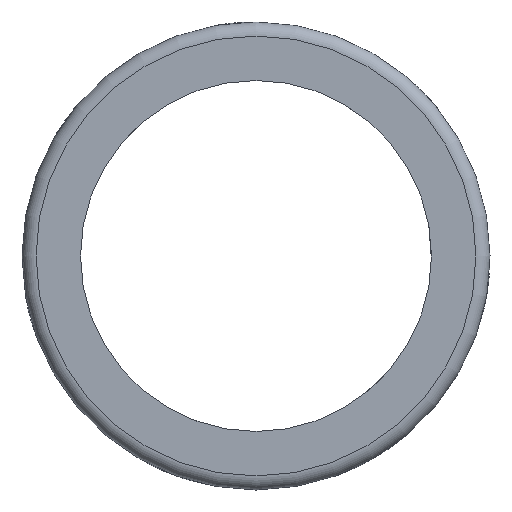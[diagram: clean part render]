
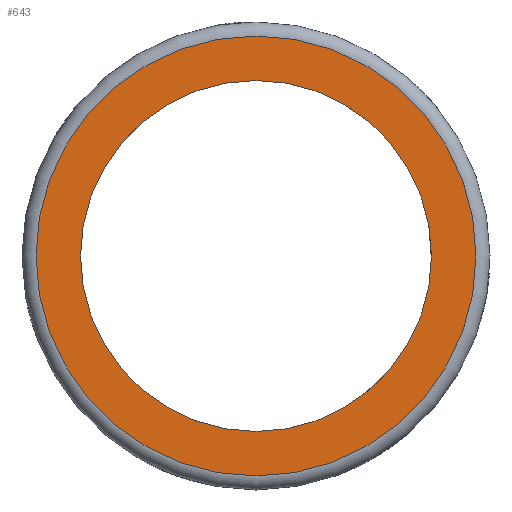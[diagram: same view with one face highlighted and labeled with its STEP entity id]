
A CAD part, left-side view. The second image highlights one B-rep face of the part: STEP entity #643.
In plain terms, the highlighted planar face has unit normal (-1, 0, 0).
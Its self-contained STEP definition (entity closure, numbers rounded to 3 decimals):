
#23=PLANE('',#695);
#40=CIRCLE('',#691,15.);
#43=CIRCLE('',#696,18.8);
#218=ORIENTED_EDGE('',*,*,#397,.T.);
#219=ORIENTED_EDGE('',*,*,#378,.T.);
#378=EDGE_CURVE('',#468,#468,#40,.T.);
#397=EDGE_CURVE('',#487,#487,#43,.F.);
#468=VERTEX_POINT('',#1033);
#487=VERTEX_POINT('',#1105);
#536=EDGE_LOOP('',(#218));
#537=EDGE_LOOP('',(#219));
#590=FACE_BOUND('',#536,.T.);
#591=FACE_BOUND('',#537,.T.);
#643=ADVANCED_FACE('',(#590,#591),#23,.F.);
#691=AXIS2_PLACEMENT_3D('',#1032,#757,#758);
#695=AXIS2_PLACEMENT_3D('',#1103,#773,#774);
#696=AXIS2_PLACEMENT_3D('',#1104,#775,#776);
#757=DIRECTION('',(1.,0.,0.));
#758=DIRECTION('',(0.,0.,-1.));
#773=DIRECTION('',(1.,0.,0.));
#774=DIRECTION('',(0.,0.,-1.));
#775=DIRECTION('',(1.,0.,0.));
#776=DIRECTION('',(0.,0.,-1.));
#1032=CARTESIAN_POINT('',(-25.,0.,0.));
#1033=CARTESIAN_POINT('',(-25.,0.,-15.));
#1103=CARTESIAN_POINT('',(-25.,0.,0.));
#1104=CARTESIAN_POINT('',(-25.,0.,0.));
#1105=CARTESIAN_POINT('',(-25.,0.,-18.8));
